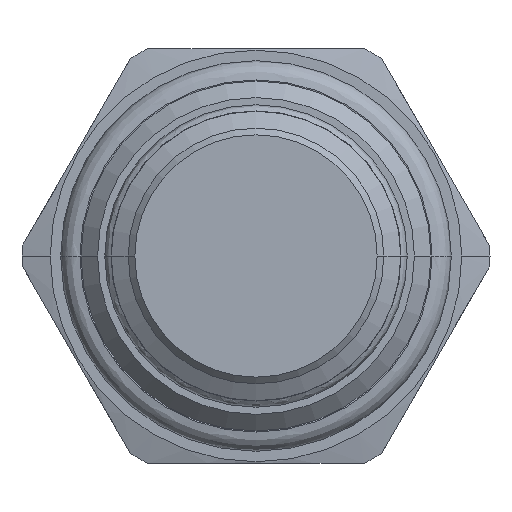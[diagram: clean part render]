
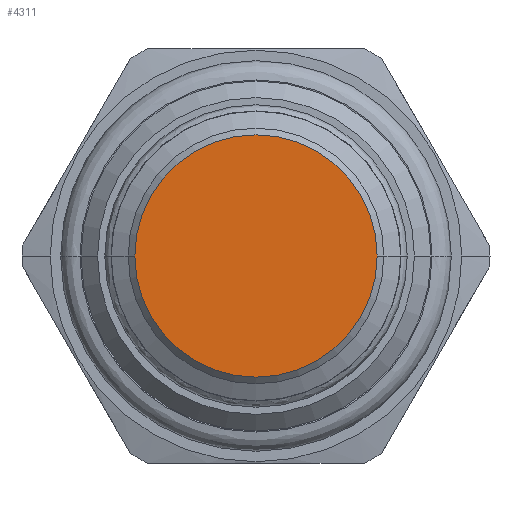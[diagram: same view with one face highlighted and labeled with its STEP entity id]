
A CAD part, front view. The second image highlights one B-rep face of the part: STEP entity #4311.
In plain terms, the highlighted planar face has unit normal (0, -1, 0).
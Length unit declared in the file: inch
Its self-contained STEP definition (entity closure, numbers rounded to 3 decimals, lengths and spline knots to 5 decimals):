
#1764=CARTESIAN_POINT('',(0.,-2.39867,0.));
#1765=DIRECTION('',(0.,1.,0.));
#1766=DIRECTION('',(-1.,0.,0.));
#1767=AXIS2_PLACEMENT_3D('',#1764,#1765,#1766);
#1774=CARTESIAN_POINT('',(0.,-2.39867,0.));
#1775=DIRECTION('',(0.,1.,0.));
#1776=DIRECTION('',(1.,0.,0.));
#1777=AXIS2_PLACEMENT_3D('',#1774,#1775,#1776);
#1867=CARTESIAN_POINT('',(-0.365,-2.39867,0.));
#1868=CARTESIAN_POINT('',(0.365,-2.39867,0.));
#1869=VERTEX_POINT('',#1867);
#1870=VERTEX_POINT('',#1868);
#4301=CARTESIAN_POINT('',(0.,-2.39867,0.));
#4302=DIRECTION('',(0.,-1.,0.));
#4303=DIRECTION('',(0.,0.,-1.));
#4304=AXIS2_PLACEMENT_3D('',#4301,#4302,#4303);
#4305=PLANE('',#4304);
#4307=ORIENTED_EDGE('',*,*,#4306,.T.);
#4308=ORIENTED_EDGE('',*,*,#4291,.T.);
#4309=EDGE_LOOP('',(#4307,#4308));
#4310=FACE_OUTER_BOUND('',#4309,.F.);
#4311=ADVANCED_FACE('',(#4310),#4305,.T.);
#1768=CIRCLE('',#1767,0.365);
#1778=CIRCLE('',#1777,0.365);
#4291=EDGE_CURVE('',#1869,#1870,#1768,.T.);
#4306=EDGE_CURVE('',#1870,#1869,#1778,.T.);
